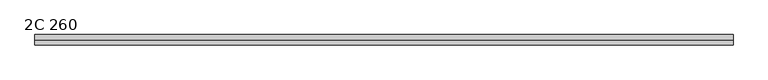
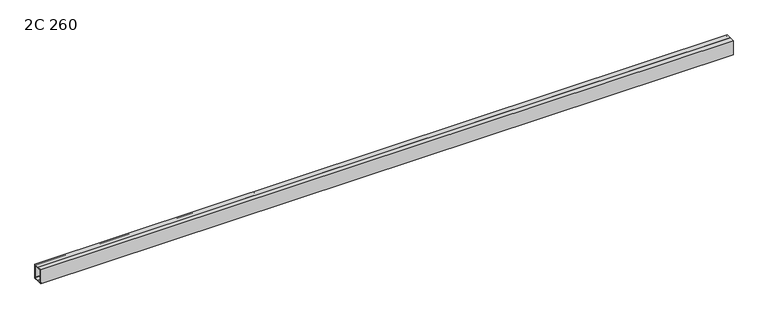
"""IFC4 building model written with IfcOpenShell, lengths in millimetres: beam geometry, RPLN C - Ceowniki normalne_beamx2 : 2C 260."""

import ifcopenshell
import ifcopenshell.guid

model = None  # the IFC model being written
_history = None  # IfcOwnerHistory: only IFC2X3 demands one
_inside = {}  # id of a spatial element -> (the spatial element, [elements in it])
_under = {}  # id of a project, library or spatial element -> (it, [spatial elements below it])
_declared = {}  # id of a project -> (the project, [libraries it declares])
_typed = {}  # id of a type object -> (the type object, [elements of that type])
_made_of = {}  # id of a material, layer set ... -> (it, [elements and type objects made of it])


def new_model(schema):
    """Start an empty IFC model of exactly this schema.

    Asked for "IFC4X3", IfcOpenShell would pick the latest addendum, in which some entities
    have other attributes; the version numbers below select the first issue.
    IFC2X3 requires an IfcOwnerHistory on every rooted entity: one is made here for all.
    """
    global model, _history
    if schema == "IFC4X3":
        model = ifcopenshell.file(schema_version=(4, 3, 0, 0))
    else:
        model = ifcopenshell.file(schema=schema)
    _inside.clear()
    _under.clear()
    _declared.clear()
    _typed.clear()
    _made_of.clear()
    _history = None
    if model.schema == "IFC2X3":
        org = make("IfcOrganization", Name="unknown")
        user = make(
            "IfcPersonAndOrganization",
            ThePerson=make("IfcPerson", FamilyName="unknown"),
            TheOrganization=org,
        )
        app = make(
            "IfcApplication",
            ApplicationDeveloper=org,
            Version="unknown",
            ApplicationFullName="unknown",
            ApplicationIdentifier="unknown",
        )
        _history = make(
            "IfcOwnerHistory",
            OwningUser=user,
            OwningApplication=app,
            ChangeAction="ADDED",
            CreationDate=0,
        )
    return model


def make(cls, **values):
    """One entity of the class cls with the attributes given. An attribute that is None is left unset."""
    return model.create_entity(
        cls, **{name: value for name, value in values.items() if value is not None}
    )


def rooted(cls, **values):
    """An entity with a GlobalId (a new one), such as an element, a storey or a relation."""
    return make(cls, GlobalId=ifcopenshell.guid.new(), OwnerHistory=_history, **values)


def si_unit(unit_type, name, prefix=None):
    """IfcSIUnit, for example si_unit("LENGTHUNIT", "METRE", prefix="MILLI")."""
    return make("IfcSIUnit", UnitType=unit_type, Prefix=prefix, Name=name)


def assignment(units):
    """IfcUnitAssignment: the units of a project."""
    return None if units is None else make("IfcUnitAssignment", Units=units)


def point(xyz):
    """IfcCartesianPoint."""
    return None if xyz is None else make("IfcCartesianPoint", Coordinates=xyz)


def direction(xyz):
    """IfcDirection."""
    return None if xyz is None else make("IfcDirection", DirectionRatios=xyz)


def frame(location, z_axis=None, x_axis=None):
    """IfcAxis2Placement3D, a coordinate frame: its origin and axes. An axis left out is left unset."""
    return make(
        "IfcAxis2Placement3D",
        Location=point(location),
        Axis=direction(z_axis),
        RefDirection=direction(x_axis),
    )


def frame_2d(location, x_axis=None):
    """IfcAxis2Placement2D, a coordinate frame in the plane: its origin and x axis."""
    return make(
        "IfcAxis2Placement2D", Location=point(location), RefDirection=direction(x_axis)
    )


def origin():
    """The frame at (0, 0, 0) with its axes left unset."""
    return frame((0.0, 0.0, 0.0))


def place(relative_to, where):
    """IfcLocalPlacement: puts the frame where relative to a parent placement (None: the world)."""
    return make(
        "IfcLocalPlacement", PlacementRelTo=relative_to, RelativePlacement=where
    )


def context(
    kind, dimensions, precision=None, world=None, true_north=None, identifier=None
):
    """IfcGeometricRepresentationContext, for example the 3D "Model" context."""
    return make(
        "IfcGeometricRepresentationContext",
        ContextIdentifier=identifier,
        ContextType=kind,
        CoordinateSpaceDimension=dimensions,
        Precision=precision,
        WorldCoordinateSystem=world,
        TrueNorth=true_north,
    )


def project(units=None, contexts=None):
    """IfcProject with its units and contexts."""
    return rooted(
        "IfcProject",
        Name="project",
        RepresentationContexts=contexts,
        UnitsInContext=assignment(units),
    )


def spatial(cls, under=None, at=None, **own):
    """A site, building, storey or space (cls), placed at a placement, below another one or the project."""
    s = rooted(cls, ObjectPlacement=at, **own)
    if under is not None:
        _under.setdefault(under.id(), (under, []))[1].append(s)
    return s


def polyline(points):
    """IfcPolyline through the points."""
    return make("IfcPolyline", Points=[point(p) for p in points])


def circle_curve(where, radius):
    """IfcCircle in the frame where."""
    return make("IfcCircle", Position=where, Radius=radius)


def trimmed(basis, trim1, trim2, sense, master):
    """IfcTrimmedCurve: the piece of a basis curve between two trims."""
    return make(
        "IfcTrimmedCurve",
        BasisCurve=basis,
        Trim1=trim1,
        Trim2=trim2,
        SenseAgreement=sense,
        MasterRepresentation=master,
    )


def segment(curve, same_sense, transition):
    """IfcCompositeCurveSegment."""
    return make(
        "IfcCompositeCurveSegment",
        Transition=transition,
        SameSense=same_sense,
        ParentCurve=curve,
    )


def composite_curve(segments, self_intersect=None):
    """IfcCompositeCurve: segments joined end to end."""
    return make("IfcCompositeCurve", Segments=segments, SelfIntersect=self_intersect)


def outline(outer, holes=None, kind="AREA"):
    """IfcArbitraryClosedProfileDef: a profile drawn as a closed curve; with holes, ...WithVoids."""
    if holes is None:
        return make("IfcArbitraryClosedProfileDef", ProfileType=kind, OuterCurve=outer)
    return make(
        "IfcArbitraryProfileDefWithVoids",
        ProfileType=kind,
        OuterCurve=outer,
        InnerCurves=holes,
    )


def extrude(swept, where, along, depth):
    """IfcExtrudedAreaSolid: the profile swept, set in the frame where, extruded along a direction by depth."""
    return make(
        "IfcExtrudedAreaSolid",
        SweptArea=swept,
        Position=where,
        ExtrudedDirection=direction(along),
        Depth=depth,
    )


def shape(context_of_items, identifier, shape_type, items):
    """IfcShapeRepresentation: the items that make up one representation, for example the "Body"."""
    return make(
        "IfcShapeRepresentation",
        ContextOfItems=context_of_items,
        RepresentationIdentifier=identifier,
        RepresentationType=shape_type,
        Items=items,
    )


def source(mapping_origin, context_of_items, identifier, shape_type, items):
    """IfcRepresentationMap: a shape defined once, which mapped items show again and again."""
    return make(
        "IfcRepresentationMap",
        MappingOrigin=mapping_origin,
        MappedRepresentation=shape(context_of_items, identifier, shape_type, items),
    )


def transform(
    local_origin,
    x_axis=None,
    y_axis=None,
    z_axis=None,
    scale=None,
    scale2=None,
    scale3=None,
    uniform=True,
):
    """IfcCartesianTransformationOperator3D, or its non-uniform kind. x_axis, y_axis, z_axis: its Axis1, 2, 3."""
    if uniform:
        return make(
            "IfcCartesianTransformationOperator3D",
            Axis1=direction(x_axis),
            Axis2=direction(y_axis),
            LocalOrigin=point(local_origin),
            Scale=scale,
            Axis3=direction(z_axis),
        )
    return make(
        "IfcCartesianTransformationOperator3DnonUniform",
        Axis1=direction(x_axis),
        Axis2=direction(y_axis),
        LocalOrigin=point(local_origin),
        Scale=scale,
        Axis3=direction(z_axis),
        Scale2=scale2,
        Scale3=scale3,
    )


def mapped(mapping_source, mapping_target):
    """IfcMappedItem: shows the shape of a source again, moved by a transform."""
    return make(
        "IfcMappedItem", MappingSource=mapping_source, MappingTarget=mapping_target
    )


def made_of(thing, what):
    """Note that an element or type object is made of a material, layer set ...; save() writes the relation."""
    if what is not None:
        _made_of.setdefault(what.id(), (what, []))[1].append(thing)
    return thing


def element(
    cls,
    number,
    at=None,
    inside=None,
    cuts=None,
    type_object=None,
    material=None,
    context=None,
    identifier="Body",
    shape_type=None,
    held_by="IfcProductDefinitionShape",
    body=None,
    shapes=None,
    **own,
):
    """One element of the class cls, such as IfcWall. Its Tag is "e" and its number.

    at: its placement. inside: the storey or other place that contains it. cuts: it is an
    opening in that element (IfcRelVoidsElement). A single representation is given by context,
    identifier, shape_type and body (its items); several are given by shapes. held_by: the class
    of the entity that holds the representations. save() writes the other relations.
    """
    e = rooted(cls, Tag="e%d" % number, ObjectPlacement=at, **own)
    if body is not None:
        shapes = [shape(context, identifier, shape_type, body)]
    if shapes is not None:
        e.Representation = make(held_by, Representations=shapes)
    if inside is not None:
        _inside.setdefault(inside.id(), (inside, []))[1].append(e)
    if cuts is not None:
        rooted(
            "IfcRelVoidsElement", RelatingBuildingElement=cuts, RelatedOpeningElement=e
        )
    if type_object is not None:
        _typed.setdefault(type_object.id(), (type_object, []))[1].append(e)
    return made_of(e, material)


def aggregate(whole, parts):
    """IfcRelAggregates: a whole, such as a stair, and the parts it consists of."""
    return rooted("IfcRelAggregates", RelatingObject=whole, RelatedObjects=parts)


def save(model, path):
    """Write the relations noted so far, then the file.

    IfcRelAggregates (storeys below a building ...), IfcRelContainedInSpatialStructure (elements
    in a storey), IfcRelDefinesByType, IfcRelAssociatesMaterial and IfcRelDeclares: one each for
    every whole, place, type object, material and project.
    """
    for whole, parts in _under.values():
        aggregate(whole, parts)
    for where, things in _inside.values():
        rooted(
            "IfcRelContainedInSpatialStructure",
            RelatedElements=things,
            RelatingStructure=where,
        )
    for kind, things in _typed.values():
        rooted("IfcRelDefinesByType", RelatedObjects=things, RelatingType=kind)
    for what, things in _made_of.values():
        rooted("IfcRelAssociatesMaterial", RelatedObjects=things, RelatingMaterial=what)
    for by, libraries in _declared.values():
        rooted("IfcRelDeclares", RelatingContext=by, RelatedDefinitions=libraries)
    model.write(path)


def beam_2c_260_021a14dd(model_context):
    return source(origin(), model_context, "Body", "SweptSolid", [
        extrude(outline(composite_curve([segment(polyline([(0.0, -116.0), (75.5, -116.0)]), True, "CONTINUOUS"), segment(trimmed(circle_curve(frame_2d((75.5, -111.5)), 4.5), [point((75.5, -116.0))], [point((80.0, -111.5))], True, "CARTESIAN"), True, "CONTINUOUS"), segment(polyline([(80.0, -111.5), (80.0, 113.0)]), True, "CONTINUOUS"), segment(trimmed(circle_curve(frame_2d((75.5, 113.0)), 4.5), [point((80.0, 113.0))], [point((75.5, 117.5))], True, "CARTESIAN"), True, "CONTINUOUS"), segment(polyline([(75.5, 117.5), (0.0, 117.5), (0.0, 130.0), (90.0, 130.0), (90.0, -130.0), (0.0, -130.0), (0.0, -116.0)]), True, "CONTINUOUS")], self_intersect=False)), frame((-6136.1, 0.0, 0.0), z_axis=(1.0, 0.0, 0.0), x_axis=(0.0, 1.0, 0.0)), (0.0, 0.0, 1.0), 12272.2),
        extrude(outline(composite_curve([segment(polyline([(0.0, -116.0), (0.0, -130.0), (-90.0, -130.0), (-90.0, 130.0), (0.0, 130.0), (0.0, 117.5), (-75.5, 117.5)]), True, "CONTINUOUS"), segment(trimmed(circle_curve(frame_2d((-75.5, 113.0)), 4.5), [point((-75.5, 117.5))], [point((-80.0, 113.0))], True, "CARTESIAN"), True, "CONTINUOUS"), segment(polyline([(-80.0, 113.0), (-80.0, -111.5)]), True, "CONTINUOUS"), segment(trimmed(circle_curve(frame_2d((-75.5, -111.5)), 4.5), [point((-80.0, -111.5))], [point((-75.5, -116.0))], True, "CARTESIAN"), True, "CONTINUOUS"), segment(polyline([(-75.5, -116.0), (0.0, -116.0)]), True, "CONTINUOUS")], self_intersect=False)), frame((-6136.1, 0.0, 0.0), z_axis=(1.0, 0.0, 0.0), x_axis=(0.0, 1.0, 0.0)), (0.0, 0.0, 1.0), 12272.2),
    ])


if __name__ == "__main__":
    model = new_model("IFC4")
    model_context = context("Model", 3, world=origin())
    ifc_project = project(units=[si_unit("LENGTHUNIT", "METRE", prefix="MILLI")], contexts=[model_context])
    site = spatial("IfcSite", under=ifc_project)
    building = spatial("IfcBuilding", under=site)
    placement = place(None, origin())
    beam_2c_260_shape = beam_2c_260_021a14dd(model_context)
    element("IfcBeam", 1, ObjectType="RPLN C - Ceowniki normalne_beamx2 : 2C 260", at=placement, inside=building, context=model_context, shape_type="MappedRepresentation", body=[
        mapped(beam_2c_260_shape, transform((0.0, 0.0, 0.0), x_axis=(1.0, 0.0, 0.0), y_axis=(0.0, 1.0, 0.0), z_axis=(0.0, 0.0, 1.0))),
    ])
    save(model, "model.ifc")
